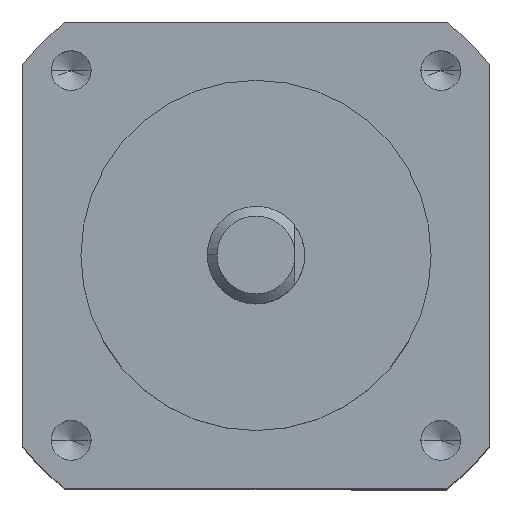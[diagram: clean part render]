
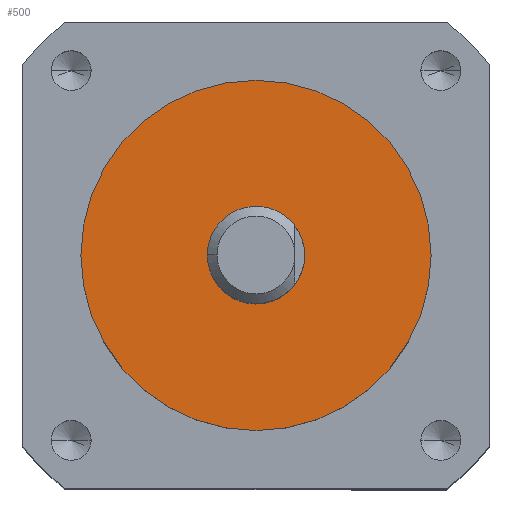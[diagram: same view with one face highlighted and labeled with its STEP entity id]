
A CAD part, top view. The second image highlights one B-rep face of the part: STEP entity #500.
In plain terms, the highlighted planar face has unit normal (0, 0, 1).
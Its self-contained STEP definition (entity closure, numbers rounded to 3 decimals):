
#32 = CARTESIAN_POINT ( 'NONE',  ( 9., 0., 1.5 ) ) ;
#115 = EDGE_CURVE ( 'NONE', #3172, #1675, #570, .T. ) ;
#224 = ORIENTED_EDGE ( 'NONE', *, *, #2966, .T. ) ;
#246 = AXIS2_PLACEMENT_3D ( 'NONE', #1878, #1590, #1566 ) ;
#262 = EDGE_CURVE ( 'NONE', #1675, #3172, #1331, .T. ) ;
#464 = CIRCLE ( 'NONE', #2065, 9. ) ;
#473 = CARTESIAN_POINT ( 'NONE',  ( -9., 0., 1.5 ) ) ;
#500 = ADVANCED_FACE ( 'NONE', ( #3141, #3058 ), #2064, .T. ) ;
#503 = AXIS2_PLACEMENT_3D ( 'NONE', #1992, #1969, #1767 ) ;
#539 = EDGE_CURVE ( 'NONE', #1627, #614, #464, .T. ) ;
#570 = CIRCLE ( 'NONE', #503, 2.5 ) ;
#612 = ORIENTED_EDGE ( 'NONE', *, *, #539, .T. ) ;
#614 = VERTEX_POINT ( 'NONE', #473 ) ;
#771 = DIRECTION ( 'NONE',  ( 0., 0., -1. ) ) ;
#803 = DIRECTION ( 'NONE',  ( 1., 0., 0. ) ) ;
#804 = ORIENTED_EDGE ( 'NONE', *, *, #115, .T. ) ;
#947 = EDGE_LOOP ( 'NONE', ( #224, #612 ) ) ;
#977 = DIRECTION ( 'NONE',  ( 0., 0., 1. ) ) ;
#1219 = CARTESIAN_POINT ( 'NONE',  ( 0., 0., 1.5 ) ) ;
#1262 = CARTESIAN_POINT ( 'NONE',  ( 0., 0., 1.5 ) ) ;
#1283 = CARTESIAN_POINT ( 'NONE',  ( -2.5, 0., 1.5 ) ) ;
#1289 = CARTESIAN_POINT ( 'NONE',  ( 0., 0., 1.5 ) ) ;
#1331 = CIRCLE ( 'NONE', #1831, 2.5 ) ;
#1513 = DIRECTION ( 'NONE',  ( 1., 0., 0. ) ) ;
#1566 = DIRECTION ( 'NONE',  ( 1., 0., 0. ) ) ;
#1582 = CARTESIAN_POINT ( 'NONE',  ( 2.5, 0., 1.5 ) ) ;
#1590 = DIRECTION ( 'NONE',  ( 0., 0., 1. ) ) ;
#1627 = VERTEX_POINT ( 'NONE', #32 ) ;
#1675 = VERTEX_POINT ( 'NONE', #1283 ) ;
#1767 = DIRECTION ( 'NONE',  ( 1., 0., 0. ) ) ;
#1831 = AXIS2_PLACEMENT_3D ( 'NONE', #1289, #771, #803 ) ;
#1878 = CARTESIAN_POINT ( 'NONE',  ( 0., 0., 1.5 ) ) ;
#1943 = DIRECTION ( 'NONE',  ( 1., 0., 0. ) ) ;
#1969 = DIRECTION ( 'NONE',  ( 0., 0., -1. ) ) ;
#1992 = CARTESIAN_POINT ( 'NONE',  ( 0., 0., 1.5 ) ) ;
#2064 = PLANE ( 'NONE',  #246 ) ;
#2065 = AXIS2_PLACEMENT_3D ( 'NONE', #1219, #977, #1943 ) ;
#2373 = ORIENTED_EDGE ( 'NONE', *, *, #262, .T. ) ;
#2414 = CIRCLE ( 'NONE', #2851, 9. ) ;
#2747 = EDGE_LOOP ( 'NONE', ( #2373, #804 ) ) ;
#2851 = AXIS2_PLACEMENT_3D ( 'NONE', #1262, #2965, #1513 ) ;
#2965 = DIRECTION ( 'NONE',  ( 0., 0., 1. ) ) ;
#2966 = EDGE_CURVE ( 'NONE', #614, #1627, #2414, .T. ) ;
#3058 = FACE_BOUND ( 'NONE', #2747, .T. ) ;
#3141 = FACE_OUTER_BOUND ( 'NONE', #947, .T. ) ;
#3172 = VERTEX_POINT ( 'NONE', #1582 ) ;
